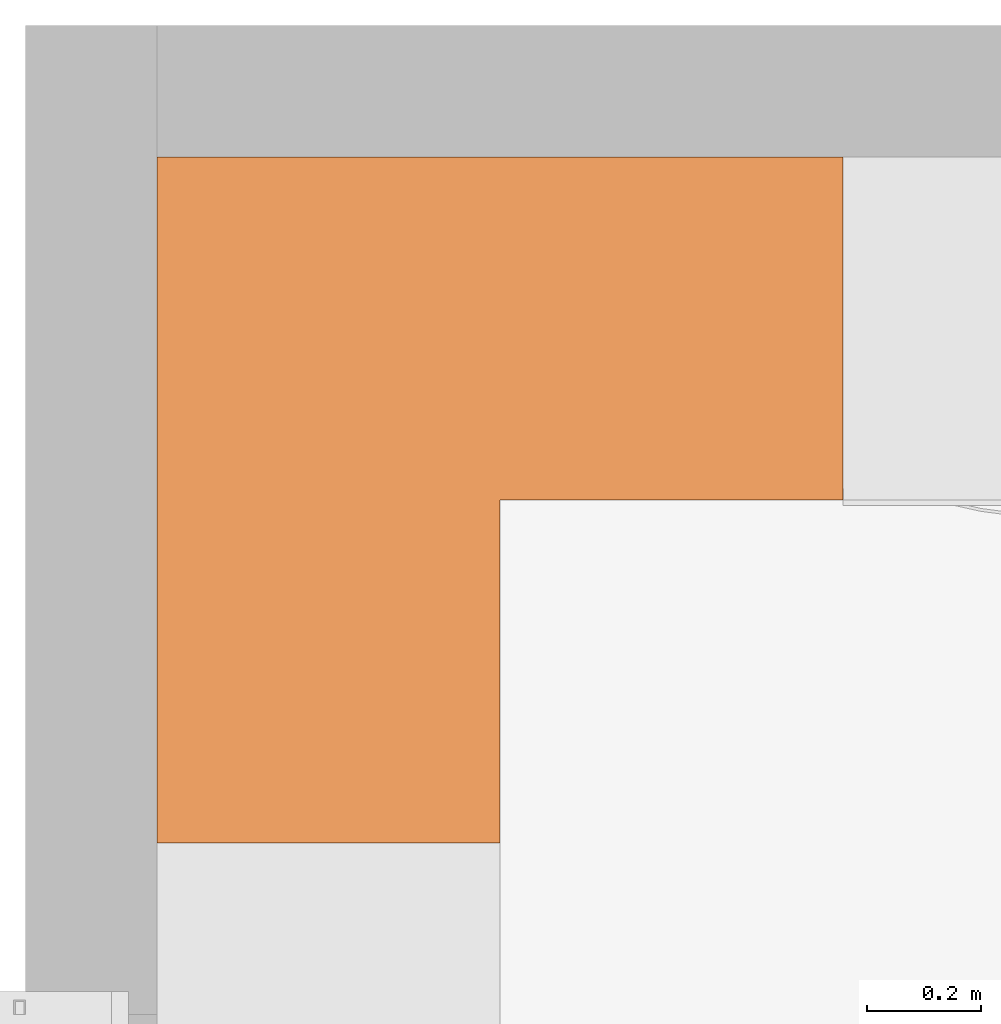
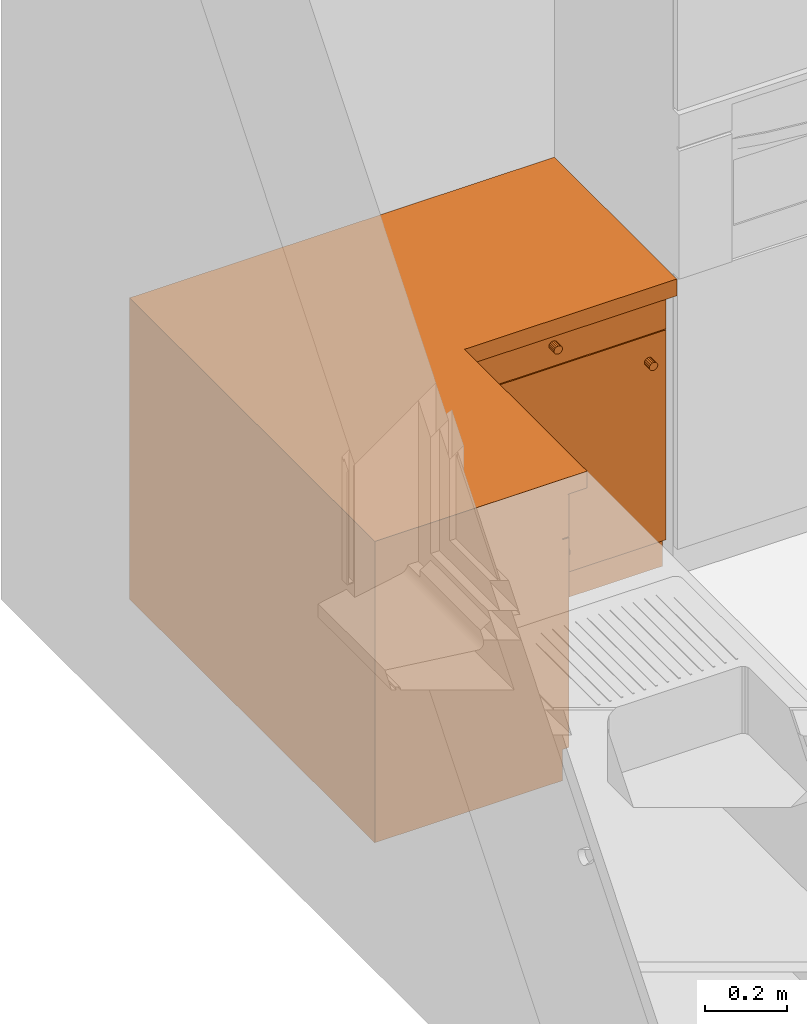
# One storey, part 15 of 17: 1 proxy.
"""IFC2X3 building model written with IfcOpenShell, lengths in metres."""

from ifc_helpers import new_model, entity, si_unit, converted_unit, derived_unit, money_unit, direction, frame, origin_with_axes, place, context, subcontext, project, spatial, faceted_brep, type_object, element, save


model = new_model("IFC2X3")

# Units and contexts
model_context = context("Model", 3, precision=1e-05, world=origin_with_axes(), true_north=direction((0.0, 1.0)))
body_context = subcontext(model_context, "Body", "Model", "MODEL_VIEW")
ifc_project = project(units=[si_unit("LENGTHUNIT", "METRE"), si_unit("AREAUNIT", "SQUARE_METRE"), si_unit("VOLUMEUNIT", "CUBIC_METRE"), converted_unit("PLANEANGLEUNIT", "DEGREE", entity("IfcPlaneAngleMeasure", 0.0174532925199), si_unit("PLANEANGLEUNIT", "RADIAN"), dimensions=[0, 0, 0, 0, 0, 0, 0]), si_unit("SOLIDANGLEUNIT", "STERADIAN"), money_unit("CHF"), converted_unit("TIMEUNIT", "Year", entity("IfcTimeMeasure", 31556926.0), si_unit("TIMEUNIT", "SECOND"), dimensions=[0, 0, 1, 0, 0, 0, 0]), si_unit("MASSUNIT", "GRAM", prefix="KILO"), si_unit("THERMODYNAMICTEMPERATUREUNIT", "DEGREE_CELSIUS"), si_unit("LUMINOUSINTENSITYUNIT", "LUMEN"), si_unit("ENERGYUNIT", "JOULE", prefix="MEGA"), derived_unit("THERMALCONDUCTANCEUNIT", [(si_unit("POWERUNIT", "WATT"), 1), (si_unit("LENGTHUNIT", "METRE"), -1), (si_unit("THERMODYNAMICTEMPERATUREUNIT", "KELVIN"), -1)]), derived_unit("SPECIFICHEATCAPACITYUNIT", [(si_unit("ENERGYUNIT", "JOULE"), 1), (si_unit("MASSUNIT", "GRAM", prefix="KILO"), -1), (si_unit("THERMODYNAMICTEMPERATUREUNIT", "KELVIN"), -1)]), derived_unit("MASSDENSITYUNIT", [(si_unit("MASSUNIT", "GRAM", prefix="KILO"), 1), (si_unit("VOLUMEUNIT", "CUBIC_METRE"), -1)])], contexts=[model_context])

# Site, building, storey
site_placement = place(None, origin_with_axes())
site = spatial("IfcSite", under=ifc_project, at=site_placement, Name="Site", CompositionType="ELEMENT")
building_placement = place(site_placement, origin_with_axes())
building = spatial("IfcBuilding", under=site, at=building_placement, Name="Bâtiment", CompositionType="ELEMENT")
storey_placement = place(building_placement, frame((0.0, 0.0, 3.0), z_axis=(0.0, 0.0, 1.0), x_axis=(1.0, 0.0, 0.0)))
storey = spatial("IfcBuildingStorey", under=building, at=storey_placement, Name="RDJ", CompositionType="ELEMENT", Elevation=3.0)

# Proxy
building_element_proxy_type = type_object("IfcBuildingElementProxyType", Name="Elément bas d'angle L 24", PredefinedType="NOTDEFINED")
proxy_placement = place(storey_placement, frame((86.2135190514, 18.5803410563, -2.99), z_axis=(0.0, 0.0, 1.0), x_axis=(0.0, 1.0, 0.0)))
element("IfcBuildingElementProxy", 1, at=proxy_placement, inside=storey, type_object=building_element_proxy_type, Name="MOB-1202", context=body_context, shape_type="Brep", body=[
    faceted_brep([(0.0, 0.0, 0.0), (0.0, 0.0, 0.09), (-0.53, 0.0, 0.09), (-0.53, 0.0, 0.0), (0.0, 1.2, 0.0), (0.0, 1.2, 0.09), (-1.2, 1.2, 0.09), (-1.2, 0.67, 0.09), (-0.53, 0.67, 0.09), (-0.53, 0.67, 0.0), (-1.2, 0.67, 0.0), (-1.2, 1.2, 0.0)], [[[0, 1, 2, 3]], [[4, 5, 1, 0]], [[1, 5, 6, 7, 8, 2]], [[3, 2, 8, 9]], [[0, 3, 9, 10, 11, 4]], [[11, 6, 5, 4]], [[10, 7, 6, 11]], [[9, 8, 7, 10]]]),
    faceted_brep([(0.0, 0.0, 0.09), (0.0, 0.0, 0.11), (-0.53, 0.0, 0.11), (-0.53, 0.0, 0.09), (0.0, 0.02, 0.09), (0.0, 0.02, 0.11), (0.0, 1.18, 0.11), (0.0, 1.2, 0.11), (-1.2, 1.2, 0.11), (-1.2, 0.67, 0.11), (-1.18, 0.67, 0.11), (-0.56, 0.67, 0.11), (-0.53, 0.67, 0.11), (-0.53, 0.64, 0.11), (-0.53, 0.02, 0.11), (-0.53, 0.02, 0.09), (-0.53, 0.64, 0.09), (-0.53, 0.67, 0.09), (-0.56, 0.67, 0.09), (-1.18, 0.67, 0.09), (-1.2, 0.67, 0.09), (-1.2, 1.2, 0.09), (0.0, 1.2, 0.09), (0.0, 1.18, 0.09)], [[[0, 1, 2, 3]], [[4, 5, 1, 0]], [[1, 5, 6, 7, 8, 9, 10, 11, 12, 13, 14, 2]], [[3, 2, 14, 15]], [[0, 3, 15, 16, 17, 18, 19, 20, 21, 22, 23, 4]], [[23, 6, 5, 4]], [[22, 7, 6, 23]], [[21, 8, 7, 22]], [[20, 9, 8, 21]], [[19, 10, 9, 20]], [[18, 11, 10, 19]], [[17, 12, 11, 18]], [[16, 13, 12, 17]], [[15, 14, 13, 16]]]),
    faceted_brep([(0.0, 0.0, 0.11), (0.0, 0.0, 0.83), (-0.53, 0.0, 0.83), (-0.53, 0.0, 0.11), (0.0, 1.2, 0.11), (0.0, 1.2, 0.83), (-1.2, 1.2, 0.83), (-1.2, 0.67, 0.83), (-1.18, 0.67, 0.83), (-1.18, 1.18, 0.83), (-0.02, 1.18, 0.83), (-0.02, 0.02, 0.83), (-0.53, 0.02, 0.83), (-0.53, 0.02, 0.11), (-0.02, 0.02, 0.11), (-0.02, 1.18, 0.11), (-1.18, 1.18, 0.11), (-1.18, 0.67, 0.11), (-1.2, 0.67, 0.11), (-1.2, 1.2, 0.11)], [[[0, 1, 2, 3]], [[4, 5, 1, 0]], [[1, 5, 6, 7, 8, 9, 10, 11, 12, 2]], [[3, 2, 12, 13]], [[0, 3, 13, 14, 15, 16, 17, 18, 19, 4]], [[19, 6, 5, 4]], [[18, 7, 6, 19]], [[17, 8, 7, 18]], [[16, 9, 8, 17]], [[15, 10, 9, 16]], [[14, 11, 10, 15]], [[13, 12, 11, 14]]]),
    faceted_brep([(-0.51, 0.64, 0.11), (-0.51, 0.64, 0.83), (-0.53, 0.64, 0.83), (-0.53, 0.64, 0.11), (-0.51, 0.69, 0.11), (-0.51, 0.69, 0.83), (-0.56, 0.69, 0.83), (-0.56, 0.67, 0.83), (-0.53, 0.67, 0.83), (-0.53, 0.67, 0.11), (-0.56, 0.67, 0.11), (-0.56, 0.69, 0.11)], [[[0, 1, 2, 3]], [[4, 5, 1, 0]], [[1, 5, 6, 7, 8, 2]], [[3, 2, 8, 9]], [[0, 3, 9, 10, 11, 4]], [[11, 6, 5, 4]], [[10, 7, 6, 11]], [[9, 8, 7, 10]]]),
    faceted_brep([(0.0, 0.0, 0.83), (0.0, 0.0, 0.85), (-0.53, 0.0, 0.85), (-0.53, 0.0, 0.83), (0.0, 0.02, 0.83), (0.0, 0.02, 0.85), (0.0, 1.18, 0.85), (0.0, 1.2, 0.85), (-1.2, 1.2, 0.85), (-1.2, 0.67, 0.85), (-1.18, 0.67, 0.85), (-0.56, 0.67, 0.85), (-0.53, 0.67, 0.85), (-0.53, 0.64, 0.85), (-0.53, 0.02, 0.85), (-0.53, 0.02, 0.83), (-0.53, 0.64, 0.83), (-0.53, 0.67, 0.83), (-0.56, 0.67, 0.83), (-1.18, 0.67, 0.83), (-1.2, 0.67, 0.83), (-1.2, 1.2, 0.83), (0.0, 1.2, 0.83), (0.0, 1.18, 0.83)], [[[0, 1, 2, 3]], [[4, 5, 1, 0]], [[1, 5, 6, 7, 8, 9, 10, 11, 12, 13, 14, 2]], [[3, 2, 14, 15]], [[0, 3, 15, 16, 17, 18, 19, 20, 21, 22, 23, 4]], [[23, 6, 5, 4]], [[22, 7, 6, 23]], [[21, 8, 7, 22]], [[20, 9, 8, 21]], [[19, 10, 9, 20]], [[18, 11, 10, 19]], [[17, 12, 11, 18]], [[16, 13, 12, 17]], [[15, 14, 13, 16]]]),
    faceted_brep([(0.0, 0.0, 0.85), (0.0, 0.0, 0.9), (-0.6, 0.0, 0.9), (-0.6, 0.0, 0.85), (0.0, 1.2, 0.85), (0.0, 1.2, 0.9), (-1.2, 1.2, 0.9), (-1.2, 0.6, 0.9), (-0.6, 0.6, 0.9), (-0.6, 0.6, 0.85), (-1.2, 0.6, 0.85), (-1.2, 1.2, 0.85)], [[[0, 1, 2, 3]], [[4, 5, 1, 0]], [[1, 5, 6, 7, 8, 2]], [[3, 2, 8, 9]], [[0, 3, 9, 10, 11, 4]], [[11, 6, 5, 4]], [[10, 7, 6, 11]], [[9, 8, 7, 10]]]),
    faceted_brep([(-0.51, 0.64, 0.73), (-0.53, 0.64, 0.73), (-0.53, 0.02, 0.73), (-0.02, 0.02, 0.73), (-0.02, 1.18, 0.73), (-1.18, 1.18, 0.73), (-1.18, 0.67, 0.73), (-0.56, 0.67, 0.73), (-0.56, 0.69, 0.73), (-0.51, 0.69, 0.73), (-0.51, 0.64, 0.71), (-0.53, 0.64, 0.71), (-0.53, 0.02, 0.71), (-0.02, 0.02, 0.71), (-0.02, 1.18, 0.71), (-1.18, 1.18, 0.71), (-1.18, 0.67, 0.71), (-0.56, 0.67, 0.71), (-0.56, 0.69, 0.71), (-0.51, 0.69, 0.71)], [[[0, 1, 2, 3, 4, 5, 6, 7, 8, 9]], [[0, 10, 11, 1]], [[11, 12, 2, 1]], [[12, 13, 3, 2]], [[13, 14, 4, 3]], [[14, 15, 5, 4]], [[15, 16, 6, 5]], [[7, 6, 16, 17]], [[7, 17, 18, 8]], [[8, 18, 19, 9]], [[9, 19, 10, 0]], [[10, 19, 18, 17, 16, 15, 14, 13, 12, 11]]]),
    faceted_brep([(-0.51, 0.64, 0.405), (-0.53, 0.64, 0.405), (-0.53, 0.02, 0.405), (-0.02, 0.02, 0.405), (-0.02, 1.18, 0.405), (-1.18, 1.18, 0.405), (-1.18, 0.67, 0.405), (-0.56, 0.67, 0.405), (-0.56, 0.69, 0.405), (-0.51, 0.69, 0.405), (-0.51, 0.64, 0.385), (-0.53, 0.64, 0.385), (-0.53, 0.02, 0.385), (-0.02, 0.02, 0.385), (-0.02, 1.18, 0.385), (-1.18, 1.18, 0.385), (-1.18, 0.67, 0.385), (-0.56, 0.67, 0.385), (-0.56, 0.69, 0.385), (-0.51, 0.69, 0.385)], [[[0, 1, 2, 3, 4, 5, 6, 7, 8, 9]], [[0, 10, 11, 1]], [[11, 12, 2, 1]], [[12, 13, 3, 2]], [[13, 14, 4, 3]], [[14, 15, 5, 4]], [[15, 16, 6, 5]], [[7, 6, 16, 17]], [[7, 17, 18, 8]], [[8, 18, 19, 9]], [[9, 19, 10, 0]], [[10, 19, 18, 17, 16, 15, 14, 13, 12, 11]]]),
    faceted_brep([(-0.53, 0.64, 0.7215), (-0.53, 0.0015, 0.7215), (-0.55, 0.0015, 0.7215), (-0.55, 0.64, 0.7215), (-0.53, 0.64, 0.8485), (-0.53, 0.0015, 0.8485), (-0.55, 0.0015, 0.8485), (-0.55, 0.64, 0.8485)], [[[0, 1, 2, 3]], [[0, 4, 5, 1]], [[1, 5, 6, 2]], [[3, 2, 6, 7]], [[4, 0, 3, 7]], [[5, 4, 7, 6]]]),
    faceted_brep([(-0.55, 0.325342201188, 0.79608655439), (-0.55, 0.32075, 0.797), (-0.55, 0.316157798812, 0.79608655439), (-0.55, 0.312264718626, 0.793485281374), (-0.55, 0.30966344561, 0.789592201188), (-0.55, 0.30875, 0.785), (-0.55, 0.30966344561, 0.780407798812), (-0.55, 0.312264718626, 0.776514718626), (-0.55, 0.316157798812, 0.77391344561), (-0.55, 0.32075, 0.773), (-0.55, 0.325342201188, 0.77391344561), (-0.55, 0.329235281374, 0.776514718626), (-0.55, 0.33183655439, 0.780407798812), (-0.55, 0.33275, 0.785), (-0.55, 0.33183655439, 0.789592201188), (-0.55, 0.329235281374, 0.793485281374), (-0.575, 0.325342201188, 0.79608655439), (-0.575, 0.32075, 0.797), (-0.575, 0.316157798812, 0.79608655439), (-0.575, 0.312264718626, 0.793485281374), (-0.575, 0.30966344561, 0.789592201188), (-0.575, 0.30875, 0.785), (-0.575, 0.30966344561, 0.780407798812), (-0.575, 0.312264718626, 0.776514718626), (-0.575, 0.316157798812, 0.77391344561), (-0.575, 0.32075, 0.773), (-0.575, 0.325342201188, 0.77391344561), (-0.575, 0.329235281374, 0.776514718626), (-0.575, 0.33183655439, 0.780407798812), (-0.575, 0.33275, 0.785), (-0.575, 0.33183655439, 0.789592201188), (-0.575, 0.329235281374, 0.793485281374)], [[[0, 1, 2, 3, 4, 5, 6, 7, 8, 9, 10, 11, 12, 13, 14, 15]], [[0, 16, 17, 1]], [[1, 17, 18, 2]], [[2, 18, 19, 3]], [[3, 19, 20, 4]], [[4, 20, 21, 5]], [[5, 21, 22, 6]], [[6, 22, 23, 7]], [[7, 23, 24, 8]], [[8, 24, 25, 9]], [[9, 25, 26, 10]], [[10, 26, 27, 11]], [[11, 27, 28, 12]], [[12, 28, 29, 13]], [[13, 29, 30, 14]], [[14, 30, 31, 15]], [[15, 31, 16, 0]], [[16, 31, 30, 29, 28, 27, 26, 25, 24, 23, 22, 21, 20, 19, 18, 17]]]),
    faceted_brep([(-0.56, 0.67, 0.7215), (-0.56, 0.65, 0.7215), (-1.1985, 0.65, 0.7215), (-1.1985, 0.67, 0.7215), (-0.56, 0.67, 0.8485), (-0.56, 0.65, 0.8485), (-1.1985, 0.65, 0.8485), (-1.1985, 0.67, 0.8485)], [[[0, 1, 2, 3]], [[4, 5, 1, 0]], [[1, 5, 6, 2]], [[3, 2, 6, 7]], [[0, 3, 7, 4]], [[7, 6, 5, 4]]]),
    faceted_brep([(-0.883842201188, 0.65, 0.79608655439), (-0.87925, 0.65, 0.797), (-0.874657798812, 0.65, 0.79608655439), (-0.870764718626, 0.65, 0.793485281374), (-0.86816344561, 0.65, 0.789592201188), (-0.86725, 0.65, 0.785), (-0.86816344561, 0.65, 0.780407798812), (-0.870764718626, 0.65, 0.776514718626), (-0.874657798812, 0.65, 0.77391344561), (-0.87925, 0.65, 0.773), (-0.883842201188, 0.65, 0.77391344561), (-0.887735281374, 0.65, 0.776514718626), (-0.89033655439, 0.65, 0.780407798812), (-0.89125, 0.65, 0.785), (-0.89033655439, 0.65, 0.789592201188), (-0.887735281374, 0.65, 0.793485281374), (-0.883842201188, 0.625, 0.79608655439), (-0.87925, 0.625, 0.797), (-0.874657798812, 0.625, 0.79608655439), (-0.870764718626, 0.625, 0.793485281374), (-0.86816344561, 0.625, 0.789592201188), (-0.86725, 0.625, 0.785), (-0.86816344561, 0.625, 0.780407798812), (-0.870764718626, 0.625, 0.776514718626), (-0.874657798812, 0.625, 0.77391344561), (-0.87925, 0.625, 0.773), (-0.883842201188, 0.625, 0.77391344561), (-0.887735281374, 0.625, 0.776514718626), (-0.89033655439, 0.625, 0.780407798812), (-0.89125, 0.625, 0.785), (-0.89033655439, 0.625, 0.789592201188), (-0.887735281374, 0.625, 0.793485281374)], [[[0, 1, 2, 3, 4, 5, 6, 7, 8, 9, 10, 11, 12, 13, 14, 15]], [[0, 16, 17, 1]], [[1, 17, 18, 2]], [[2, 18, 19, 3]], [[3, 19, 20, 4]], [[4, 20, 21, 5]], [[5, 21, 22, 6]], [[6, 22, 23, 7]], [[7, 23, 24, 8]], [[8, 24, 25, 9]], [[9, 25, 26, 10]], [[10, 26, 27, 11]], [[11, 27, 28, 12]], [[12, 28, 29, 13]], [[13, 29, 30, 14]], [[14, 30, 31, 15]], [[15, 31, 16, 0]], [[16, 31, 30, 29, 28, 27, 26, 25, 24, 23, 22, 21, 20, 19, 18, 17]]]),
    faceted_brep([(-0.53, 0.64, 0.0915), (-0.53, 0.0015, 0.0915), (-0.55, 0.0015, 0.0915), (-0.55, 0.64, 0.0915), (-0.53, 0.64, 0.7185), (-0.53, 0.0015, 0.7185), (-0.55, 0.0015, 0.7185), (-0.55, 0.64, 0.7185)], [[[0, 1, 2, 3]], [[0, 4, 5, 1]], [[1, 5, 6, 2]], [[3, 2, 6, 7]], [[4, 0, 3, 7]], [[5, 4, 7, 6]]]),
    faceted_brep([(-0.55, 0.0404134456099, 0.636907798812), (-0.55, 0.0430147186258, 0.633014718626), (-0.55, 0.0469077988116, 0.63041344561), (-0.55, 0.0515, 0.6295), (-0.55, 0.0560922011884, 0.63041344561), (-0.55, 0.0599852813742, 0.633014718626), (-0.55, 0.0625865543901, 0.636907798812), (-0.55, 0.0635, 0.6415), (-0.55, 0.0625865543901, 0.646092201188), (-0.55, 0.0599852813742, 0.649985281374), (-0.55, 0.0560922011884, 0.65258655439), (-0.55, 0.0515, 0.6535), (-0.55, 0.0469077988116, 0.65258655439), (-0.55, 0.0430147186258, 0.649985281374), (-0.55, 0.0404134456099, 0.646092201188), (-0.55, 0.0395, 0.6415), (-0.575, 0.0404134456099, 0.636907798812), (-0.575, 0.0430147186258, 0.633014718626), (-0.575, 0.0469077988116, 0.63041344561), (-0.575, 0.0515, 0.6295), (-0.575, 0.0560922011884, 0.63041344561), (-0.575, 0.0599852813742, 0.633014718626), (-0.575, 0.0625865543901, 0.636907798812), (-0.575, 0.0635, 0.6415), (-0.575, 0.0625865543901, 0.646092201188), (-0.575, 0.0599852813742, 0.649985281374), (-0.575, 0.0560922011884, 0.65258655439), (-0.575, 0.0515, 0.6535), (-0.575, 0.0469077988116, 0.65258655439), (-0.575, 0.0430147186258, 0.649985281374), (-0.575, 0.0404134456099, 0.646092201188), (-0.575, 0.0395, 0.6415)], [[[0, 1, 2, 3, 4, 5, 6, 7, 8, 9, 10, 11, 12, 13, 14, 15]], [[1, 0, 16, 17]], [[2, 1, 17, 18]], [[3, 2, 18, 19]], [[4, 3, 19, 20]], [[5, 4, 20, 21]], [[6, 5, 21, 22]], [[7, 6, 22, 23]], [[8, 7, 23, 24]], [[9, 8, 24, 25]], [[10, 9, 25, 26]], [[11, 10, 26, 27]], [[12, 11, 27, 28]], [[13, 12, 28, 29]], [[14, 13, 29, 30]], [[15, 14, 30, 31]], [[0, 15, 31, 16]], [[16, 31, 30, 29, 28, 27, 26, 25, 24, 23, 22, 21, 20, 19, 18, 17]]]),
    faceted_brep([(-0.56, 0.67, 0.0915), (-0.56, 0.65, 0.0915), (-1.1985, 0.65, 0.0915), (-1.1985, 0.67, 0.0915), (-0.56, 0.67, 0.7185), (-0.56, 0.65, 0.7185), (-1.1985, 0.65, 0.7185), (-1.1985, 0.67, 0.7185)], [[[0, 1, 2, 3]], [[4, 5, 1, 0]], [[1, 5, 6, 2]], [[3, 2, 6, 7]], [[0, 3, 7, 4]], [[7, 6, 5, 4]]]),
    faceted_brep([(-1.15958655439, 0.65, 0.636907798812), (-1.1605, 0.65, 0.6415), (-1.15958655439, 0.65, 0.646092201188), (-1.15698528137, 0.65, 0.649985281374), (-1.15309220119, 0.65, 0.65258655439), (-1.1485, 0.65, 0.6535), (-1.14390779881, 0.65, 0.65258655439), (-1.14001471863, 0.65, 0.649985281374), (-1.13741344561, 0.65, 0.646092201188), (-1.1365, 0.65, 0.6415), (-1.13741344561, 0.65, 0.636907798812), (-1.14001471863, 0.65, 0.633014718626), (-1.14390779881, 0.65, 0.63041344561), (-1.1485, 0.65, 0.6295), (-1.15309220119, 0.65, 0.63041344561), (-1.15698528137, 0.65, 0.633014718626), (-1.15958655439, 0.625, 0.636907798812), (-1.1605, 0.625, 0.6415), (-1.15958655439, 0.625, 0.646092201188), (-1.15698528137, 0.625, 0.649985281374), (-1.15309220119, 0.625, 0.65258655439), (-1.1485, 0.625, 0.6535), (-1.14390779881, 0.625, 0.65258655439), (-1.14001471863, 0.625, 0.649985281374), (-1.13741344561, 0.625, 0.646092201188), (-1.1365, 0.625, 0.6415), (-1.13741344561, 0.625, 0.636907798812), (-1.14001471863, 0.625, 0.633014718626), (-1.14390779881, 0.625, 0.63041344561), (-1.1485, 0.625, 0.6295), (-1.15309220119, 0.625, 0.63041344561), (-1.15698528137, 0.625, 0.633014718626)], [[[0, 1, 2, 3, 4, 5, 6, 7, 8, 9, 10, 11, 12, 13, 14, 15]], [[0, 16, 17, 1]], [[1, 17, 18, 2]], [[2, 18, 19, 3]], [[3, 19, 20, 4]], [[4, 20, 21, 5]], [[5, 21, 22, 6]], [[6, 22, 23, 7]], [[7, 23, 24, 8]], [[8, 24, 25, 9]], [[9, 25, 26, 10]], [[10, 26, 27, 11]], [[11, 27, 28, 12]], [[12, 28, 29, 13]], [[13, 29, 30, 14]], [[14, 30, 31, 15]], [[15, 31, 16, 0]], [[16, 31, 30, 29, 28, 27, 26, 25, 24, 23, 22, 21, 20, 19, 18, 17]]]),
])

save(model, "model.ifc")
